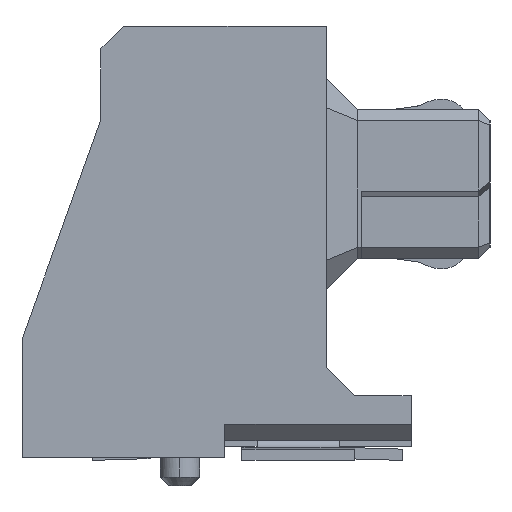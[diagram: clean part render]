
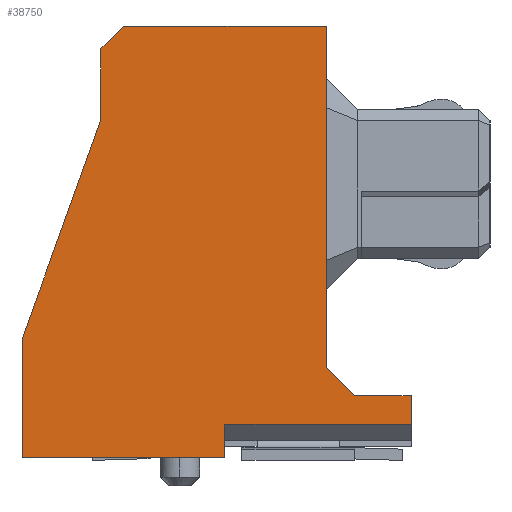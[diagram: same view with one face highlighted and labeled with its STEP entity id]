
A CAD part, left-side view. The second image highlights one B-rep face of the part: STEP entity #38750.
In plain terms, the highlighted planar face has unit normal (-1, 0, 0) as drawn and (0, 0, 1) by its records, which use the part's own axes.
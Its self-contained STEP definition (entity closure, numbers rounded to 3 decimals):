
#22480=CARTESIAN_POINT('',(24.287,-57.914,28.5));
#22490=VERTEX_POINT('',#22480);
#22520=CARTESIAN_POINT('',(45.103,0.,28.5));
#22530=DIRECTION('',(0.338,0.941,0.));
#22540=VECTOR('',#22530,1.);
#22550=LINE('',#22520,#22540);
#22560=CARTESIAN_POINT('',(22.887,-61.809,28.5));
#22570=VERTEX_POINT('',#22560);
#22580=EDGE_CURVE('',#22570,#22490,#22550,.T.);
#23680=CARTESIAN_POINT('',(29.787,-62.809,28.5));
#23690=VERTEX_POINT('',#23680);
#23720=CARTESIAN_POINT('',(0.,-62.809,28.5));
#23730=DIRECTION('',(1.,0.,0.));
#23740=VECTOR('',#23730,1.);
#23750=LINE('',#23720,#23740);
#23760=CARTESIAN_POINT('',(28.787,-62.809,28.5));
#23770=VERTEX_POINT('',#23760);
#23780=EDGE_CURVE('',#23770,#23690,#23750,.T.);
#31670=CARTESIAN_POINT('',(24.287,-56.659,28.5));
#31680=VERTEX_POINT('',#31670);
#31710=CARTESIAN_POINT('',(24.287,0.,28.5));
#31720=DIRECTION('',(0.,1.,0.));
#31730=VECTOR('',#31720,1.);
#31740=LINE('',#31710,#31730);
#31750=EDGE_CURVE('',#22490,#31680,#31740,.T.);
#33450=CARTESIAN_POINT('',(26.487,0.,28.5));
#33460=DIRECTION('',(0.,-1.,0.));
#33470=VECTOR('',#33460,1.);
#33480=LINE('',#33450,#33470);
#33490=CARTESIAN_POINT('',(26.487,-63.314,28.5));
#33500=VERTEX_POINT('',#33490);
#33510=CARTESIAN_POINT('',(26.487,-63.909,28.5));
#33520=VERTEX_POINT('',#33510);
#33530=EDGE_CURVE('',#33500,#33520,#33480,.T.);
#38060=CARTESIAN_POINT('',(0.,0.,28.5));
#38070=DIRECTION('',(0.,0.,1.));
#38080=DIRECTION('',(1.,0.,0.));
#38090=AXIS2_PLACEMENT_3D('',#38060,#38070,#38080);
#38100=PLANE('',#38090);
#38110=CARTESIAN_POINT('',(22.887,0.,28.5));
#38120=DIRECTION('',(0.,1.,0.));
#38130=VECTOR('',#38120,1.);
#38140=LINE('',#38110,#38130);
#38150=CARTESIAN_POINT('',(22.887,-63.909,28.5));
#38160=VERTEX_POINT('',#38150);
#38170=EDGE_CURVE('',#38160,#22570,#38140,.T.);
#38180=ORIENTED_EDGE('',*,*,#38170,.F.);
#38190=ORIENTED_EDGE('',*,*,#22580,.F.);
#38200=ORIENTED_EDGE('',*,*,#31750,.F.);
#38210=CARTESIAN_POINT('',(80.946,0.,28.5));
#38220=DIRECTION('',(0.707,0.707,0.));
#38230=VECTOR('',#38220,1.);
#38240=LINE('',#38210,#38230);
#38250=CARTESIAN_POINT('',(24.687,-56.259,28.5));
#38260=VERTEX_POINT('',#38250);
#38270=EDGE_CURVE('',#31680,#38260,#38240,.T.);
#38280=ORIENTED_EDGE('',*,*,#38270,.F.);
#38290=CARTESIAN_POINT('',(0.,-56.259,28.5));
#38300=DIRECTION('',(1.,0.,0.));
#38310=VECTOR('',#38300,1.);
#38320=LINE('',#38290,#38310);
#38330=CARTESIAN_POINT('',(28.287,-56.259,28.5));
#38340=VERTEX_POINT('',#38330);
#38350=EDGE_CURVE('',#38260,#38340,#38320,.T.);
#38360=ORIENTED_EDGE('',*,*,#38350,.F.);
#38370=CARTESIAN_POINT('',(28.287,0.,28.5));
#38380=DIRECTION('',(0.,1.,0.));
#38390=VECTOR('',#38380,1.);
#38400=LINE('',#38370,#38390);
#38410=CARTESIAN_POINT('',(28.287,-62.309,28.5));
#38420=VERTEX_POINT('',#38410);
#38430=EDGE_CURVE('',#38420,#38340,#38400,.T.);
#38440=ORIENTED_EDGE('',*,*,#38430,.T.);
#38450=CARTESIAN_POINT('',(0.,-34.023,28.5));
#38460=DIRECTION('',(0.707,-0.707,0.));
#38470=VECTOR('',#38460,1.);
#38480=LINE('',#38450,#38470);
#38490=EDGE_CURVE('',#38420,#23770,#38480,.T.);
#38500=ORIENTED_EDGE('',*,*,#38490,.F.);
#38510=ORIENTED_EDGE('',*,*,#23780,.F.);
#38520=CARTESIAN_POINT('',(29.787,0.,28.5));
#38530=DIRECTION('',(0.,-1.,0.));
#38540=VECTOR('',#38530,1.);
#38550=LINE('',#38520,#38540);
#38560=CARTESIAN_POINT('',(29.787,-63.314,28.5));
#38570=VERTEX_POINT('',#38560);
#38580=EDGE_CURVE('',#23690,#38570,#38550,.T.);
#38590=ORIENTED_EDGE('',*,*,#38580,.F.);
#38600=CARTESIAN_POINT('',(0.,-63.314,28.5));
#38610=DIRECTION('',(1.,0.,0.));
#38620=VECTOR('',#38610,1.);
#38630=LINE('',#38600,#38620);
#38640=EDGE_CURVE('',#33500,#38570,#38630,.T.);
#38650=ORIENTED_EDGE('',*,*,#38640,.T.);
#38660=ORIENTED_EDGE('',*,*,#33530,.F.);
#38670=CARTESIAN_POINT('',(0.,-63.909,28.5));
#38680=DIRECTION('',(1.,0.,0.));
#38690=VECTOR('',#38680,1.);
#38700=LINE('',#38670,#38690);
#38710=EDGE_CURVE('',#38160,#33520,#38700,.T.);
#38720=ORIENTED_EDGE('',*,*,#38710,.T.);
#38730=EDGE_LOOP('',(#38720,#38660,#38650,#38590,#38510,#38500,#38440,
#38360,#38280,#38200,#38190,#38180));
#38740=FACE_OUTER_BOUND('',#38730,.T.);
#38750=ADVANCED_FACE('',(#38740),#38100,.T.);
